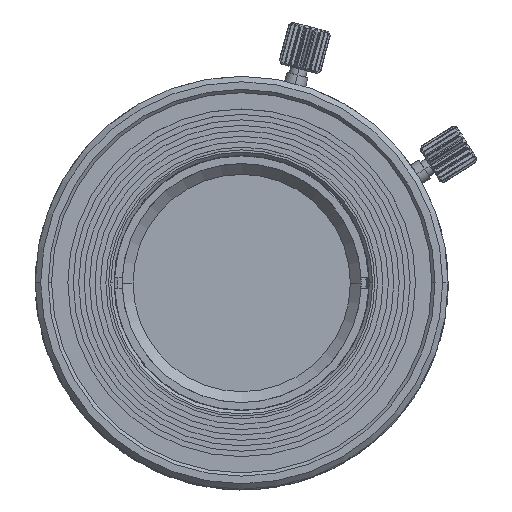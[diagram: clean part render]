
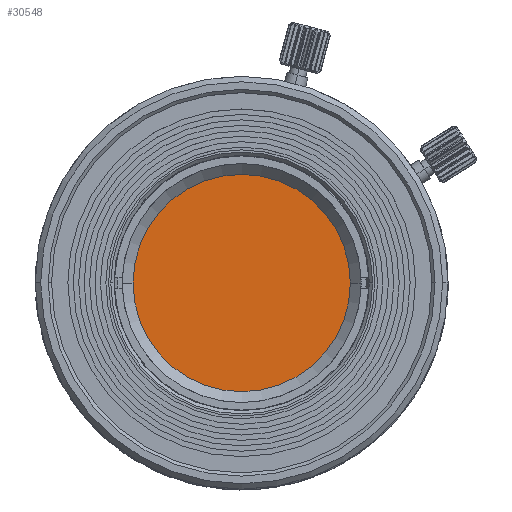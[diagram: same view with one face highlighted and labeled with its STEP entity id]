
A CAD part, top view. The second image highlights one B-rep face of the part: STEP entity #30548.
In plain terms, the highlighted planar face has unit normal (0, 0, 1).
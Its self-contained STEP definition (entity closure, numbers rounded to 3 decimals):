
#925 = EDGE_CURVE ( 'NONE', #6852, #46830, #49327, .T. ) ;
#1026 = AXIS2_PLACEMENT_3D ( 'NONE', #43492, #13726, #9701 ) ;
#3984 = PLANE ( 'NONE',  #44785 ) ;
#6317 = EDGE_LOOP ( 'NONE', ( #17626, #47807 ) ) ;
#6852 = VERTEX_POINT ( 'NONE', #12818 ) ;
#7616 = CARTESIAN_POINT ( 'NONE',  ( -10., 0., 30.145 ) ) ;
#8023 = DIRECTION ( 'NONE',  ( 1., 0., 0. ) ) ;
#9057 = CARTESIAN_POINT ( 'NONE',  ( 0., 0., 30.145 ) ) ;
#9701 = DIRECTION ( 'NONE',  ( 1., 0., 0. ) ) ;
#12818 = CARTESIAN_POINT ( 'NONE',  ( 10., 0., 30.145 ) ) ;
#13094 = DIRECTION ( 'NONE',  ( 1., 0., 0. ) ) ;
#13726 = DIRECTION ( 'NONE',  ( 0., 0., 1. ) ) ;
#16509 = AXIS2_PLACEMENT_3D ( 'NONE', #9057, #37216, #13094 ) ;
#17536 = EDGE_CURVE ( 'NONE', #46830, #6852, #34759, .T. ) ;
#17626 = ORIENTED_EDGE ( 'NONE', *, *, #925, .T. ) ;
#21868 = FACE_OUTER_BOUND ( 'NONE', #6317, .T. ) ;
#27711 = CARTESIAN_POINT ( 'NONE',  ( 0., 10.522, 30.145 ) ) ;
#30548 = ADVANCED_FACE ( 'NONE', ( #21868 ), #3984, .T. ) ;
#32106 = DIRECTION ( 'NONE',  ( 0., 0., 1. ) ) ;
#34759 = CIRCLE ( 'NONE', #16509, 10. ) ;
#37216 = DIRECTION ( 'NONE',  ( 0., 0., 1. ) ) ;
#43492 = CARTESIAN_POINT ( 'NONE',  ( 0., 0., 30.145 ) ) ;
#44785 = AXIS2_PLACEMENT_3D ( 'NONE', #27711, #32106, #8023 ) ;
#46830 = VERTEX_POINT ( 'NONE', #7616 ) ;
#47807 = ORIENTED_EDGE ( 'NONE', *, *, #17536, .T. ) ;
#49327 = CIRCLE ( 'NONE', #1026, 10. ) ;
